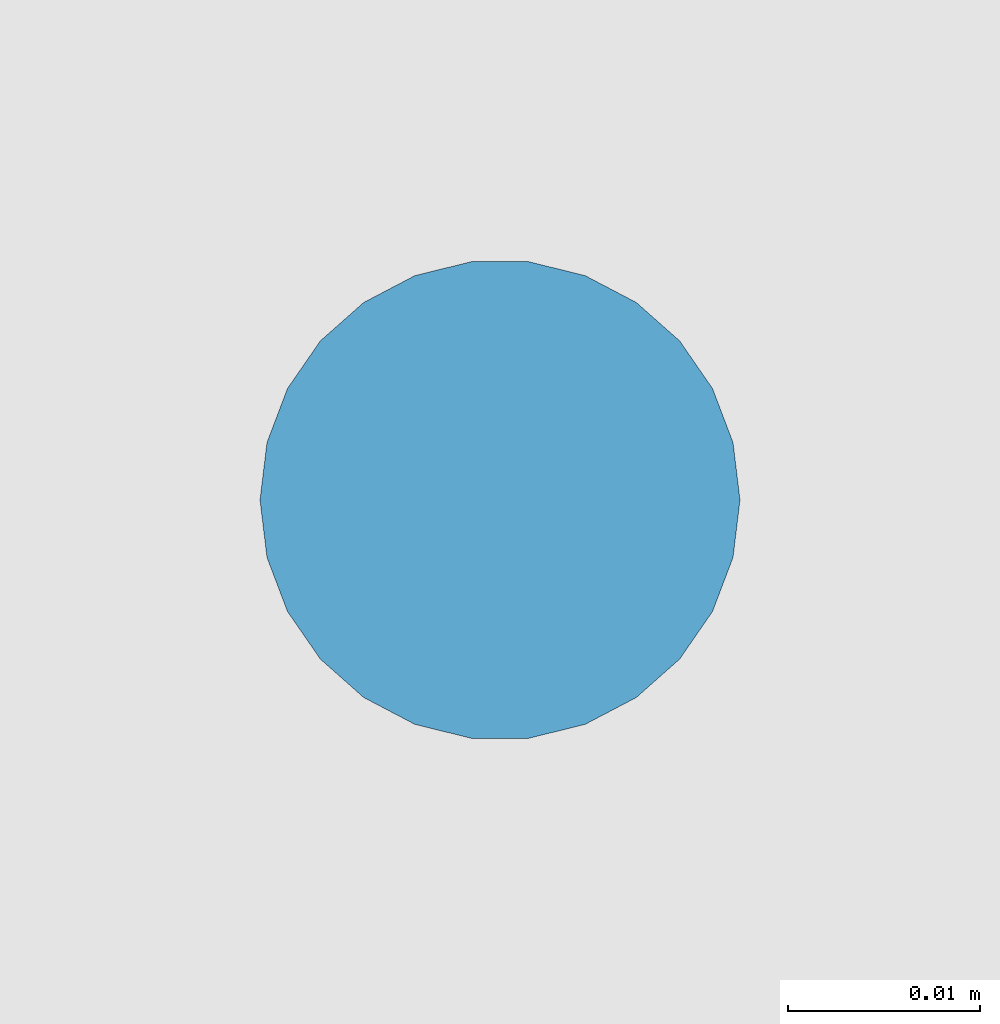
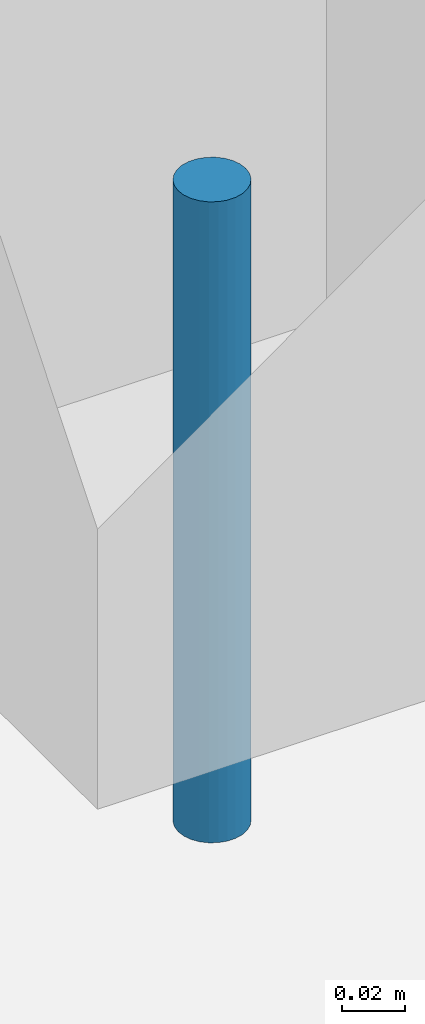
# One storey, part 1 of 34: 1 fastener.
"""IFC2X3 building model written with IfcOpenShell, lengths in metres."""

import ifcopenshell
import ifcopenshell.guid

model = None  # the IFC model being written
_history = None  # IfcOwnerHistory: only IFC2X3 demands one
_inside = {}  # id of a spatial element -> (the spatial element, [elements in it])
_under = {}  # id of a project, library or spatial element -> (it, [spatial elements below it])
_declared = {}  # id of a project -> (the project, [libraries it declares])
_typed = {}  # id of a type object -> (the type object, [elements of that type])
_made_of = {}  # id of a material, layer set ... -> (it, [elements and type objects made of it])


def new_model(schema):
    """Start an empty IFC model of exactly this schema.

    Asked for "IFC4X3", IfcOpenShell would pick the latest addendum, in which some entities
    have other attributes; the version numbers below select the first issue.
    IFC2X3 requires an IfcOwnerHistory on every rooted entity: one is made here for all.
    """
    global model, _history
    if schema == "IFC4X3":
        model = ifcopenshell.file(schema_version=(4, 3, 0, 0))
    else:
        model = ifcopenshell.file(schema=schema)
    _inside.clear()
    _under.clear()
    _declared.clear()
    _typed.clear()
    _made_of.clear()
    _history = None
    if model.schema == "IFC2X3":
        org = make("IfcOrganization", Name="unknown")
        user = make(
            "IfcPersonAndOrganization",
            ThePerson=make("IfcPerson", FamilyName="unknown"),
            TheOrganization=org,
        )
        app = make(
            "IfcApplication",
            ApplicationDeveloper=org,
            Version="unknown",
            ApplicationFullName="unknown",
            ApplicationIdentifier="unknown",
        )
        _history = make(
            "IfcOwnerHistory",
            OwningUser=user,
            OwningApplication=app,
            ChangeAction="ADDED",
            CreationDate=0,
        )
    return model


def make(cls, **values):
    """One entity of the class cls with the attributes given. An attribute that is None is left unset."""
    return model.create_entity(
        cls, **{name: value for name, value in values.items() if value is not None}
    )


def rooted(cls, **values):
    """An entity with a GlobalId (a new one), such as an element, a storey or a relation."""
    return make(cls, GlobalId=ifcopenshell.guid.new(), OwnerHistory=_history, **values)


def si_unit(unit_type, name, prefix=None):
    """IfcSIUnit, for example si_unit("LENGTHUNIT", "METRE", prefix="MILLI")."""
    return make("IfcSIUnit", UnitType=unit_type, Prefix=prefix, Name=name)


def assignment(units):
    """IfcUnitAssignment: the units of a project."""
    return None if units is None else make("IfcUnitAssignment", Units=units)


def point(xyz):
    """IfcCartesianPoint."""
    return None if xyz is None else make("IfcCartesianPoint", Coordinates=xyz)


def direction(xyz):
    """IfcDirection."""
    return None if xyz is None else make("IfcDirection", DirectionRatios=xyz)


def frame(location, z_axis=None, x_axis=None):
    """IfcAxis2Placement3D, a coordinate frame: its origin and axes. An axis left out is left unset."""
    return make(
        "IfcAxis2Placement3D",
        Location=point(location),
        Axis=direction(z_axis),
        RefDirection=direction(x_axis),
    )


def frame_2d(location, x_axis=None):
    """IfcAxis2Placement2D, a coordinate frame in the plane: its origin and x axis."""
    return make(
        "IfcAxis2Placement2D", Location=point(location), RefDirection=direction(x_axis)
    )


def origin_with_axes():
    """The frame at (0, 0, 0) with the z axis (0, 0, 1) and the x axis (1, 0, 0) written out."""
    return frame((0.0, 0.0, 0.0), z_axis=(0.0, 0.0, 1.0), x_axis=(1.0, 0.0, 0.0))


def origin_2d_with_axis():
    """The frame at (0, 0) in the plane with the x axis (1, 0) written out."""
    return frame_2d((0.0, 0.0), x_axis=(1.0, 0.0))


def place(relative_to, where):
    """IfcLocalPlacement: puts the frame where relative to a parent placement (None: the world)."""
    return make(
        "IfcLocalPlacement", PlacementRelTo=relative_to, RelativePlacement=where
    )


def context(
    kind, dimensions, precision=None, world=None, true_north=None, identifier=None
):
    """IfcGeometricRepresentationContext, for example the 3D "Model" context."""
    return make(
        "IfcGeometricRepresentationContext",
        ContextIdentifier=identifier,
        ContextType=kind,
        CoordinateSpaceDimension=dimensions,
        Precision=precision,
        WorldCoordinateSystem=world,
        TrueNorth=true_north,
    )


def subcontext(parent, identifier, kind, view, scale=None):
    """IfcGeometricRepresentationSubContext, for example "Body" below "Model"."""
    return make(
        "IfcGeometricRepresentationSubContext",
        ContextIdentifier=identifier,
        ContextType=kind,
        ParentContext=parent,
        TargetScale=scale,
        TargetView=view,
    )


def project(units=None, contexts=None):
    """IfcProject with its units and contexts."""
    return rooted(
        "IfcProject",
        Name="project",
        RepresentationContexts=contexts,
        UnitsInContext=assignment(units),
    )


def spatial(cls, under=None, at=None, **own):
    """A site, building, storey or space (cls), placed at a placement, below another one or the project."""
    s = rooted(cls, ObjectPlacement=at, **own)
    if under is not None:
        _under.setdefault(under.id(), (under, []))[1].append(s)
    return s


def profile(cls, at=None, kind="AREA", **sizes):
    """A parametric profile (cls). Its sizes go by their IFC names, for example OverallWidth=200.0."""
    return make(cls, ProfileType=kind, Position=at, **sizes)


def circle(**sizes):
    """IfcCircleProfileDef."""
    return profile("IfcCircleProfileDef", **sizes)


def extrude(swept, where, along, depth):
    """IfcExtrudedAreaSolid: the profile swept, set in the frame where, extruded along a direction by depth."""
    return make(
        "IfcExtrudedAreaSolid",
        SweptArea=swept,
        Position=where,
        ExtrudedDirection=direction(along),
        Depth=depth,
    )


def shape(context_of_items, identifier, shape_type, items):
    """IfcShapeRepresentation: the items that make up one representation, for example the "Body"."""
    return make(
        "IfcShapeRepresentation",
        ContextOfItems=context_of_items,
        RepresentationIdentifier=identifier,
        RepresentationType=shape_type,
        Items=items,
    )


def made_of(thing, what):
    """Note that an element or type object is made of a material, layer set ...; save() writes the relation."""
    if what is not None:
        _made_of.setdefault(what.id(), (what, []))[1].append(thing)
    return thing


def element(
    cls,
    number,
    at=None,
    inside=None,
    cuts=None,
    type_object=None,
    material=None,
    context=None,
    identifier="Body",
    shape_type=None,
    held_by="IfcProductDefinitionShape",
    body=None,
    shapes=None,
    **own,
):
    """One element of the class cls, such as IfcWall. Its Tag is "e" and its number.

    at: its placement. inside: the storey or other place that contains it. cuts: it is an
    opening in that element (IfcRelVoidsElement). A single representation is given by context,
    identifier, shape_type and body (its items); several are given by shapes. held_by: the class
    of the entity that holds the representations. save() writes the other relations.
    """
    e = rooted(cls, Tag="e%d" % number, ObjectPlacement=at, **own)
    if body is not None:
        shapes = [shape(context, identifier, shape_type, body)]
    if shapes is not None:
        e.Representation = make(held_by, Representations=shapes)
    if inside is not None:
        _inside.setdefault(inside.id(), (inside, []))[1].append(e)
    if cuts is not None:
        rooted(
            "IfcRelVoidsElement", RelatingBuildingElement=cuts, RelatedOpeningElement=e
        )
    if type_object is not None:
        _typed.setdefault(type_object.id(), (type_object, []))[1].append(e)
    return made_of(e, material)


def aggregate(whole, parts):
    """IfcRelAggregates: a whole, such as a stair, and the parts it consists of."""
    return rooted("IfcRelAggregates", RelatingObject=whole, RelatedObjects=parts)


def save(model, path):
    """Write the relations noted so far, then the file.

    IfcRelAggregates (storeys below a building ...), IfcRelContainedInSpatialStructure (elements
    in a storey), IfcRelDefinesByType, IfcRelAssociatesMaterial and IfcRelDeclares: one each for
    every whole, place, type object, material and project.
    """
    for whole, parts in _under.values():
        aggregate(whole, parts)
    for where, things in _inside.values():
        rooted(
            "IfcRelContainedInSpatialStructure",
            RelatedElements=things,
            RelatingStructure=where,
        )
    for kind, things in _typed.values():
        rooted("IfcRelDefinesByType", RelatedObjects=things, RelatingType=kind)
    for what, things in _made_of.values():
        rooted("IfcRelAssociatesMaterial", RelatedObjects=things, RelatingMaterial=what)
    for by, libraries in _declared.values():
        rooted("IfcRelDeclares", RelatingContext=by, RelatedDefinitions=libraries)
    model.write(path)


model = new_model("IFC2X3")

# Units and contexts
model_context = context("Model", 3, precision=1e-06, world=origin_with_axes(), true_north=direction((0.0, 1.0, 0.0)))
body_context = subcontext(model_context, "Body", "Model", "MODEL_VIEW")
ifc_project = project(units=[si_unit("LENGTHUNIT", "METRE"), si_unit("AREAUNIT", "SQUARE_METRE"), si_unit("VOLUMEUNIT", "CUBIC_METRE"), si_unit("PLANEANGLEUNIT", "RADIAN")], contexts=[model_context])

# Site, building, storey
site_placement = place(None, origin_with_axes())
site = spatial("IfcSite", under=ifc_project, at=site_placement, CompositionType="ELEMENT")
building_placement = place(site_placement, origin_with_axes())
building = spatial("IfcBuilding", under=site, at=building_placement, Name="Building 1", CompositionType="ELEMENT")
storey_placement = place(building_placement, origin_with_axes())
storey = spatial("IfcBuildingStorey", under=building, at=storey_placement, Name="Rez de chaussée", CompositionType="ELEMENT", Elevation=0.0)

# Fastener
fastener_placement = place(storey_placement, frame((6.652, 0.056, 0.15), z_axis=(0.0, -1.0, 0.0), x_axis=(0.0, 0.0, -1.0)))
element("IfcFastener", 1, at=fastener_placement, inside=storey, Name="Chevilles", context=body_context, shape_type="SweptSolid", body=[
    extrude(circle(Radius=0.0125, at=origin_2d_with_axis()), frame((0.0, 0.0, 0.0), z_axis=(1.0, 0.0, 0.0), x_axis=(0.0, 1.0, 0.0)), (0.0, 0.0, 1.0), 0.25),
])

save(model, "model.ifc")
